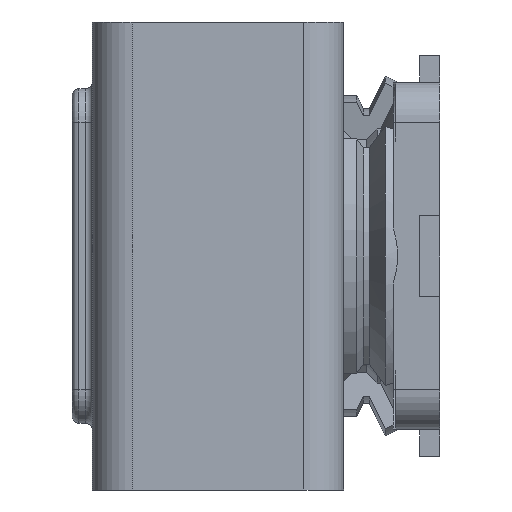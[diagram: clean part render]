
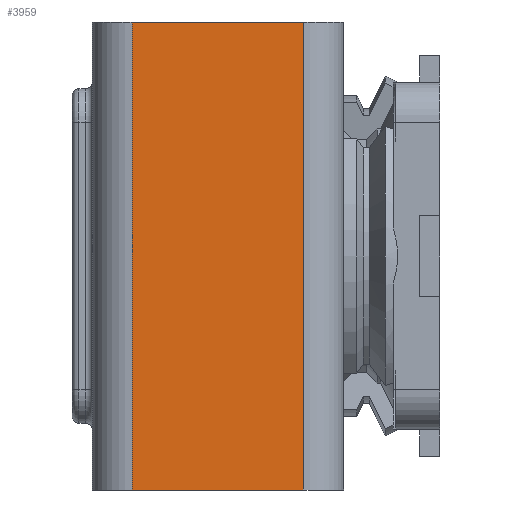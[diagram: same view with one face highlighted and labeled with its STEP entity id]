
A CAD part, left-side view. The second image highlights one B-rep face of the part: STEP entity #3959.
In plain terms, the highlighted planar face has unit normal (-1, 0, 0).
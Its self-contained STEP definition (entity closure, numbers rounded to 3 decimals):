
#13 = DIRECTION ( 'NONE',  ( 0., -1., 0. ) ) ;
#213 = ORIENTED_EDGE ( 'NONE', *, *, #11421, .T. ) ;
#417 = CARTESIAN_POINT ( 'NONE',  ( -3.7, 0.2, -1.75 ) ) ;
#533 = ORIENTED_EDGE ( 'NONE', *, *, #6366, .T. ) ;
#1751 = VERTEX_POINT ( 'NONE', #13059 ) ;
#2021 = DIRECTION ( 'NONE',  ( 1., 0., 0. ) ) ;
#2407 = AXIS2_PLACEMENT_3D ( 'NONE', #9185, #2021, #13412 ) ;
#2760 = VECTOR ( 'NONE', #6905, 1000. ) ;
#2840 = DIRECTION ( 'NONE',  ( 0., 0., 1. ) ) ;
#3863 = PLANE ( 'NONE',  #2407 ) ;
#3951 = ORIENTED_EDGE ( 'NONE', *, *, #11607, .F. ) ;
#3959 = ADVANCED_FACE ( 'NONE', ( #9112 ), #3863, .F. ) ;
#4086 = CARTESIAN_POINT ( 'NONE',  ( -3.7, -1.08, -1.75 ) ) ;
#4356 = CARTESIAN_POINT ( 'NONE',  ( -3.7, -1.18, 1.75 ) ) ;
#4625 = DIRECTION ( 'NONE',  ( 0., -1., 0. ) ) ;
#4683 = LINE ( 'NONE', #417, #2760 ) ;
#5044 = CARTESIAN_POINT ( 'NONE',  ( -3.7, -1.08, -1.75 ) ) ;
#5283 = VECTOR ( 'NONE', #4625, 1000. ) ;
#5385 = LINE ( 'NONE', #4356, #6272 ) ;
#6011 = CARTESIAN_POINT ( 'NONE',  ( -3.7, -1.18, -1.75 ) ) ;
#6224 = LINE ( 'NONE', #4086, #12217 ) ;
#6272 = VECTOR ( 'NONE', #13, 1000. ) ;
#6366 = EDGE_CURVE ( 'NONE', #10035, #9780, #12959, .T. ) ;
#6905 = DIRECTION ( 'NONE',  ( 0., 0., 1. ) ) ;
#7621 = CARTESIAN_POINT ( 'NONE',  ( -3.7, 0.2, -1.75 ) ) ;
#9005 = EDGE_LOOP ( 'NONE', ( #533, #213, #3951, #9936 ) ) ;
#9112 = FACE_OUTER_BOUND ( 'NONE', #9005, .T. ) ;
#9185 = CARTESIAN_POINT ( 'NONE',  ( -3.7, -1.18, -1.75 ) ) ;
#9780 = VERTEX_POINT ( 'NONE', #5044 ) ;
#9936 = ORIENTED_EDGE ( 'NONE', *, *, #13526, .F. ) ;
#10035 = VERTEX_POINT ( 'NONE', #7621 ) ;
#11348 = CARTESIAN_POINT ( 'NONE',  ( -3.7, 0.2, 1.75 ) ) ;
#11421 = EDGE_CURVE ( 'NONE', #9780, #1751, #6224, .T. ) ;
#11607 = EDGE_CURVE ( 'NONE', #12438, #1751, #5385, .T. ) ;
#12217 = VECTOR ( 'NONE', #2840, 1000. ) ;
#12438 = VERTEX_POINT ( 'NONE', #11348 ) ;
#12959 = LINE ( 'NONE', #6011, #5283 ) ;
#13059 = CARTESIAN_POINT ( 'NONE',  ( -3.7, -1.08, 1.75 ) ) ;
#13412 = DIRECTION ( 'NONE',  ( 0., 0., -1. ) ) ;
#13526 = EDGE_CURVE ( 'NONE', #10035, #12438, #4683, .T. ) ;
